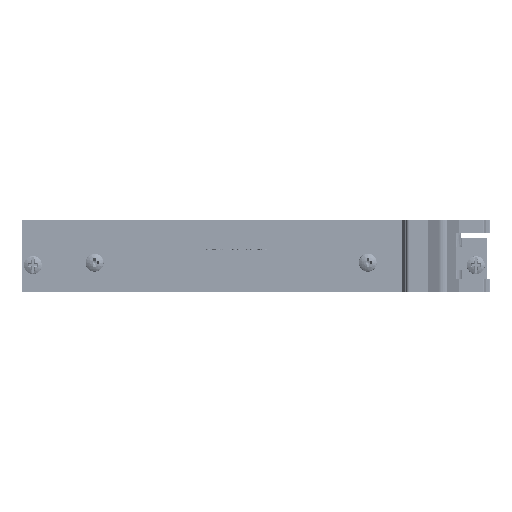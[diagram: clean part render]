
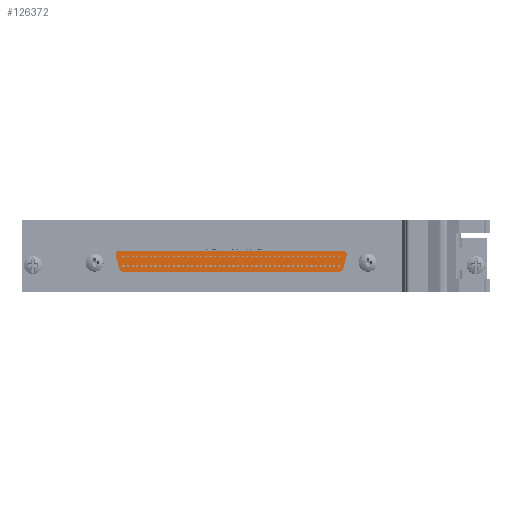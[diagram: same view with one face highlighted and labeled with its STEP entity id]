
A CAD part, left-side view. The second image highlights one B-rep face of the part: STEP entity #126372.
In plain terms, the highlighted planar face has unit normal (-1, 0, 0).
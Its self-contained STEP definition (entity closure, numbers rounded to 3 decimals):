
#10070 = VERTEX_POINT ( 'NONE', #156591 ) ;
#19678 = AXIS2_PLACEMENT_3D ( 'NONE', #165903, #296981, #230467 ) ;
#24397 = VERTEX_POINT ( 'NONE', #388987 ) ;
#30044 = ORIENTED_EDGE ( 'NONE', *, *, #390301, .T. ) ;
#31424 = VERTEX_POINT ( 'NONE', #201408 ) ;
#31658 = DIRECTION ( 'NONE',  ( 0., 0., -1. ) ) ;
#33643 = ORIENTED_EDGE ( 'NONE', *, *, #178985, .T. ) ;
#47320 = ORIENTED_EDGE ( 'NONE', *, *, #62432, .T. ) ;
#47937 = CARTESIAN_POINT ( 'NONE',  ( 5.966, 7.688, 32.024 ) ) ;
#48614 = CARTESIAN_POINT ( 'NONE',  ( 5.966, 3.988, -29.045 ) ) ;
#62432 = EDGE_CURVE ( 'NONE', #24397, #364485, #141128, .T. ) ;
#73624 = AXIS2_PLACEMENT_3D ( 'NONE', #311566, #153299, #403136 ) ;
#75901 = DIRECTION ( 'NONE',  ( 0., 0., 1. ) ) ;
#84191 = CARTESIAN_POINT ( 'NONE',  ( 5.966, 7.429, -31.002 ) ) ;
#87443 = AXIS2_PLACEMENT_3D ( 'NONE', #47937, #241554, #206282 ) ;
#88828 = ORIENTED_EDGE ( 'NONE', *, *, #292269, .T. ) ;
#102184 = PLANE ( 'NONE',  #87443 ) ;
#105923 = CARTESIAN_POINT ( 'NONE',  ( 5.966, 8.688, -30.036 ) ) ;
#106077 = CIRCLE ( 'NONE', #19678, 1. ) ;
#107000 = DIRECTION ( 'NONE',  ( 0., 0., -1. ) ) ;
#113143 = DIRECTION ( 'NONE',  ( -1., 0., 0. ) ) ;
#121521 = EDGE_CURVE ( 'NONE', #226510, #204853, #267220, .T. ) ;
#126372 = ADVANCED_FACE ( 'NONE', ( #295802 ), #102184, .T. ) ;
#134263 = CARTESIAN_POINT ( 'NONE',  ( 5.966, 3.988, 31.032 ) ) ;
#138947 = VECTOR ( 'NONE', #390550, 1000. ) ;
#141128 = CIRCLE ( 'NONE', #353947, 1. ) ;
#142830 = VECTOR ( 'NONE', #285718, 1000. ) ;
#150119 = EDGE_CURVE ( 'NONE', #204853, #31424, #283955, .T. ) ;
#153299 = DIRECTION ( 'NONE',  ( -1., 0., 0. ) ) ;
#154159 = EDGE_CURVE ( 'NONE', #349696, #10070, #106077, .T. ) ;
#156591 = CARTESIAN_POINT ( 'NONE',  ( 5.966, 7.688, 33.024 ) ) ;
#158662 = CARTESIAN_POINT ( 'NONE',  ( 5.966, 7.429, 32.99 ) ) ;
#165852 = CARTESIAN_POINT ( 'NONE',  ( 5.966, 2.988, 31.032 ) ) ;
#165903 = CARTESIAN_POINT ( 'NONE',  ( 5.966, 7.688, 32.024 ) ) ;
#175216 = CARTESIAN_POINT ( 'NONE',  ( 5.966, 7.429, 32.99 ) ) ;
#178985 = EDGE_CURVE ( 'NONE', #10070, #373140, #399348, .T. ) ;
#184436 = ORIENTED_EDGE ( 'NONE', *, *, #150119, .T. ) ;
#198432 = EDGE_CURVE ( 'NONE', #258968, #24397, #288757, .T. ) ;
#199725 = LINE ( 'NONE', #105923, #245745 ) ;
#201390 = EDGE_LOOP ( 'NONE', ( #259759, #33643, #295085, #342907, #184436, #88828, #201509, #47320, #30044 ) ) ;
#201399 = CARTESIAN_POINT ( 'NONE',  ( 5.966, 2.988, -29.045 ) ) ;
#201408 = CARTESIAN_POINT ( 'NONE',  ( 5.966, 3.729, -30.011 ) ) ;
#201509 = ORIENTED_EDGE ( 'NONE', *, *, #198432, .T. ) ;
#204853 = VERTEX_POINT ( 'NONE', #84191 ) ;
#206282 = DIRECTION ( 'NONE',  ( 0., 0., 1. ) ) ;
#219503 = DIRECTION ( 'NONE',  ( 0., -0.966, 0.259 ) ) ;
#226510 = VERTEX_POINT ( 'NONE', #386734 ) ;
#230467 = DIRECTION ( 'NONE',  ( 0., 0., 1. ) ) ;
#234228 = DIRECTION ( 'NONE',  ( -1., 0., 0. ) ) ;
#241554 = DIRECTION ( 'NONE',  ( -1., 0., 0. ) ) ;
#242556 = CARTESIAN_POINT ( 'NONE',  ( 5.966, 7.688, -30.036 ) ) ;
#245745 = VECTOR ( 'NONE', #31658, 1000. ) ;
#256264 = VECTOR ( 'NONE', #219503, 1000. ) ;
#256469 = EDGE_CURVE ( 'NONE', #373140, #226510, #199725, .T. ) ;
#258968 = VERTEX_POINT ( 'NONE', #201399 ) ;
#259759 = ORIENTED_EDGE ( 'NONE', *, *, #154159, .T. ) ;
#267220 = CIRCLE ( 'NONE', #320350, 1. ) ;
#283122 = CIRCLE ( 'NONE', #316369, 1. ) ;
#283955 = LINE ( 'NONE', #377608, #256264 ) ;
#285718 = DIRECTION ( 'NONE',  ( 0., 0.966, 0.259 ) ) ;
#288757 = LINE ( 'NONE', #165852, #138947 ) ;
#292269 = EDGE_CURVE ( 'NONE', #31424, #258968, #283122, .T. ) ;
#295085 = ORIENTED_EDGE ( 'NONE', *, *, #256469, .T. ) ;
#295802 = FACE_OUTER_BOUND ( 'NONE', #201390, .T. ) ;
#296981 = DIRECTION ( 'NONE',  ( -1., 0., 0. ) ) ;
#311566 = CARTESIAN_POINT ( 'NONE',  ( 5.966, 7.688, 32.024 ) ) ;
#316369 = AXIS2_PLACEMENT_3D ( 'NONE', #48614, #113143, #107000 ) ;
#316906 = LINE ( 'NONE', #158662, #142830 ) ;
#320350 = AXIS2_PLACEMENT_3D ( 'NONE', #242556, #338393, #394548 ) ;
#327406 = CARTESIAN_POINT ( 'NONE',  ( 5.966, 3.729, 31.998 ) ) ;
#338393 = DIRECTION ( 'NONE',  ( -1., 0., 0. ) ) ;
#342907 = ORIENTED_EDGE ( 'NONE', *, *, #121521, .T. ) ;
#349696 = VERTEX_POINT ( 'NONE', #175216 ) ;
#353947 = AXIS2_PLACEMENT_3D ( 'NONE', #134263, #234228, #75901 ) ;
#364485 = VERTEX_POINT ( 'NONE', #327406 ) ;
#371566 = CARTESIAN_POINT ( 'NONE',  ( 5.966, 8.688, 32.024 ) ) ;
#373140 = VERTEX_POINT ( 'NONE', #371566 ) ;
#377608 = CARTESIAN_POINT ( 'NONE',  ( 5.966, 7.429, -31.002 ) ) ;
#386734 = CARTESIAN_POINT ( 'NONE',  ( 5.966, 8.688, -30.036 ) ) ;
#388987 = CARTESIAN_POINT ( 'NONE',  ( 5.966, 2.988, 31.032 ) ) ;
#390301 = EDGE_CURVE ( 'NONE', #364485, #349696, #316906, .T. ) ;
#390550 = DIRECTION ( 'NONE',  ( 0., 0., 1. ) ) ;
#394548 = DIRECTION ( 'NONE',  ( 0., 0., -1. ) ) ;
#399348 = CIRCLE ( 'NONE', #73624, 1. ) ;
#403136 = DIRECTION ( 'NONE',  ( 0., 0., 1. ) ) ;
